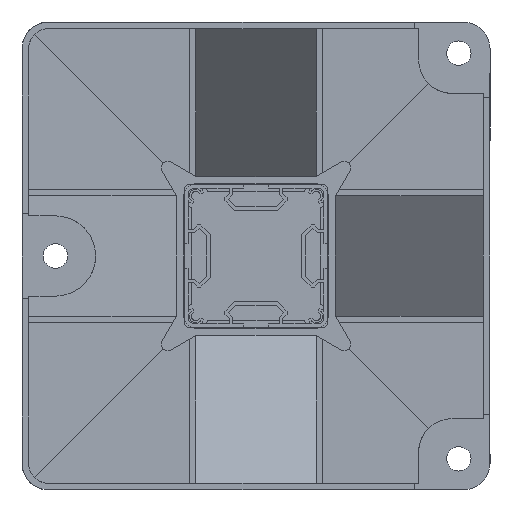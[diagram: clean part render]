
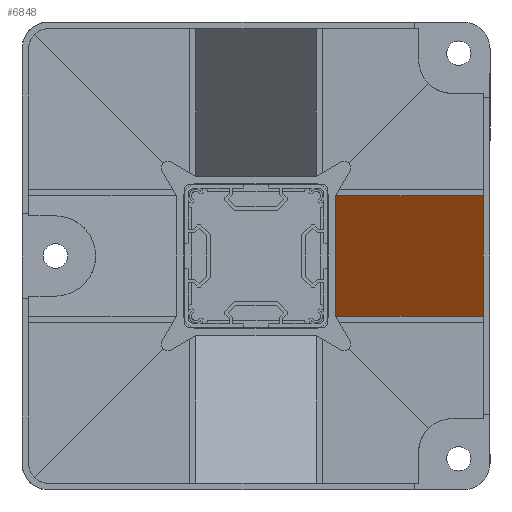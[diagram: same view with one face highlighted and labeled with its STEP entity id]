
A CAD part, front view. The second image highlights one B-rep face of the part: STEP entity #6848.
In plain terms, the highlighted planar face has unit normal (-0.697, -0.718, 0).
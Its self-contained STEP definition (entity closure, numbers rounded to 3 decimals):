
#186 = FACE_OUTER_BOUND ( 'NONE', #6839, .T. ) ;
#262 = DIRECTION ( 'NONE',  ( -0.696, -0.718, 0. ) ) ;
#264 = PLANE ( 'NONE',  #361 ) ;
#273 = CARTESIAN_POINT ( 'NONE',  ( 95.693, 77.847, 178.635 ) ) ;
#335 = DIRECTION ( 'NONE',  ( -0.718, 0.696, 0. ) ) ;
#336 = VECTOR ( 'NONE', #335, 1000. ) ;
#341 = CARTESIAN_POINT ( 'NONE',  ( 95.693, 77.847, 35.635 ) ) ;
#342 = LINE ( 'NONE', #341, #336 ) ;
#361 = AXIS2_PLACEMENT_3D ( 'NONE', #273, #262, #384 ) ;
#384 = DIRECTION ( 'NONE',  ( 0.718, -0.696, 0. ) ) ;
#429 = CARTESIAN_POINT ( 'NONE',  ( 96.268, 77.289, 35.635 ) ) ;
#456 = CARTESIAN_POINT ( 'NONE',  ( 96.268, 77.289, 35.635 ) ) ;
#457 = CARTESIAN_POINT ( 'NONE',  ( 96.278, 77.28, 35.802 ) ) ;
#458 = CARTESIAN_POINT ( 'NONE',  ( 96.282, 77.275, 35.968 ) ) ;
#459 = CARTESIAN_POINT ( 'NONE',  ( 96.282, 77.275, 36.135 ) ) ;
#460 =( BOUNDED_CURVE ( )  B_SPLINE_CURVE ( 3, ( #459, #458, #457, #456 ),
 .UNSPECIFIED., .F., .T. ) 
 B_SPLINE_CURVE_WITH_KNOTS ( ( 4, 4 ),
 ( 0., 0.056 ),
 .UNSPECIFIED. ) 
 CURVE ( )  GEOMETRIC_REPRESENTATION_ITEM ( )  RATIONAL_B_SPLINE_CURVE ( ( 1., 1., 1., 1. ) ) 
 REPRESENTATION_ITEM ( '' )  );
#482 = DIRECTION ( 'NONE',  ( 0., 0., 1. ) ) ;
#483 = VECTOR ( 'NONE', #482, 1000. ) ;
#484 = CARTESIAN_POINT ( 'NONE',  ( 96.282, 77.275, 178.635 ) ) ;
#491 = LINE ( 'NONE', #484, #483 ) ;
#566 = CARTESIAN_POINT ( 'NONE',  ( 96.282, 77.275, 36.135 ) ) ;
#642 = DIRECTION ( 'NONE',  ( 0.718, -0.696, 0. ) ) ;
#643 = VECTOR ( 'NONE', #642, 1000. ) ;
#644 = CARTESIAN_POINT ( 'NONE',  ( 95.693, 77.847, 89.635 ) ) ;
#645 = LINE ( 'NONE', #644, #643 ) ;
#4611 = EDGE_CURVE ( 'NONE', #4779, #4780, #10003, .T. ) ;
#4680 = VERTEX_POINT ( 'NONE', #9990 ) ;
#4683 = EDGE_CURVE ( 'NONE', #4715, #4680, #9971, .T. ) ;
#4715 = VERTEX_POINT ( 'NONE', #10734 ) ;
#4779 = VERTEX_POINT ( 'NONE', #11581 ) ;
#4780 = VERTEX_POINT ( 'NONE', #11550 ) ;
#6827 = EDGE_CURVE ( 'NONE', #4779, #4715, #645, .T. ) ;
#6830 = ORIENTED_EDGE ( 'NONE', *, *, #4611, .T. ) ;
#6839 = EDGE_LOOP ( 'NONE', ( #6843, #6850, #6852, #6845, #6830, #6854 ) ) ;
#6843 = ORIENTED_EDGE ( 'NONE', *, *, #6982, .T. ) ;
#6845 = ORIENTED_EDGE ( 'NONE', *, *, #6827, .F. ) ;
#6848 = ADVANCED_FACE ( 'NONE', ( #186 ), #264, .T. ) ;
#6850 = ORIENTED_EDGE ( 'NONE', *, *, #6949, .F. ) ;
#6852 = ORIENTED_EDGE ( 'NONE', *, *, #4683, .F. ) ;
#6854 = ORIENTED_EDGE ( 'NONE', *, *, #6998, .F. ) ;
#6949 = EDGE_CURVE ( 'NONE', #4680, #7051, #342, .T. ) ;
#6982 = EDGE_CURVE ( 'NONE', #7050, #7051, #460, .T. ) ;
#6998 = EDGE_CURVE ( 'NONE', #7050, #4780, #491, .T. ) ;
#7050 = VERTEX_POINT ( 'NONE', #566 ) ;
#7051 = VERTEX_POINT ( 'NONE', #429 ) ;
#9833 = CARTESIAN_POINT ( 'NONE',  ( 96.282, 77.275, 89.135 ) ) ;
#9834 = CARTESIAN_POINT ( 'NONE',  ( 96.282, 77.275, 89.302 ) ) ;
#9835 = CARTESIAN_POINT ( 'NONE',  ( 96.278, 77.28, 89.469 ) ) ;
#9966 = DIRECTION ( 'NONE',  ( 0., 0., -1. ) ) ;
#9967 = VECTOR ( 'NONE', #9966, 1000. ) ;
#9968 = CARTESIAN_POINT ( 'NONE',  ( 162.782, 12.731, 178.635 ) ) ;
#9971 = LINE ( 'NONE', #9968, #9967 ) ;
#9990 = CARTESIAN_POINT ( 'NONE',  ( 162.782, 12.731, 35.635 ) ) ;
#10000 = CARTESIAN_POINT ( 'NONE',  ( 96.268, 77.289, 89.635 ) ) ;
#10003 =( BOUNDED_CURVE ( )  B_SPLINE_CURVE ( 3, ( #10000, #9835, #9834, #9833 ),
 .UNSPECIFIED., .F., .T. ) 
 B_SPLINE_CURVE_WITH_KNOTS ( ( 4, 4 ),
 ( 6.228, 6.283 ),
 .UNSPECIFIED. ) 
 CURVE ( )  GEOMETRIC_REPRESENTATION_ITEM ( )  RATIONAL_B_SPLINE_CURVE ( ( 1., 1., 1., 1. ) ) 
 REPRESENTATION_ITEM ( '' )  );
#10734 = CARTESIAN_POINT ( 'NONE',  ( 162.782, 12.731, 89.635 ) ) ;
#11550 = CARTESIAN_POINT ( 'NONE',  ( 96.282, 77.275, 89.135 ) ) ;
#11581 = CARTESIAN_POINT ( 'NONE',  ( 96.268, 77.289, 89.635 ) ) ;
